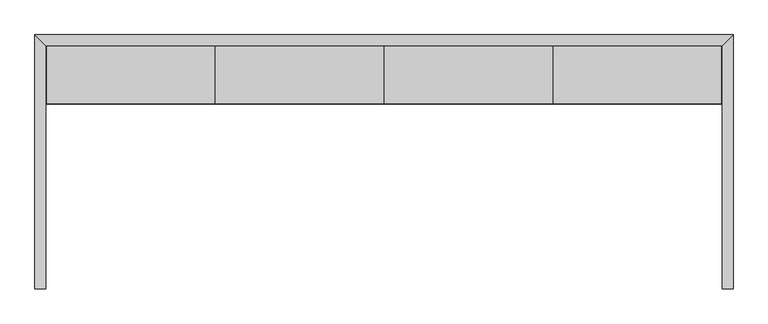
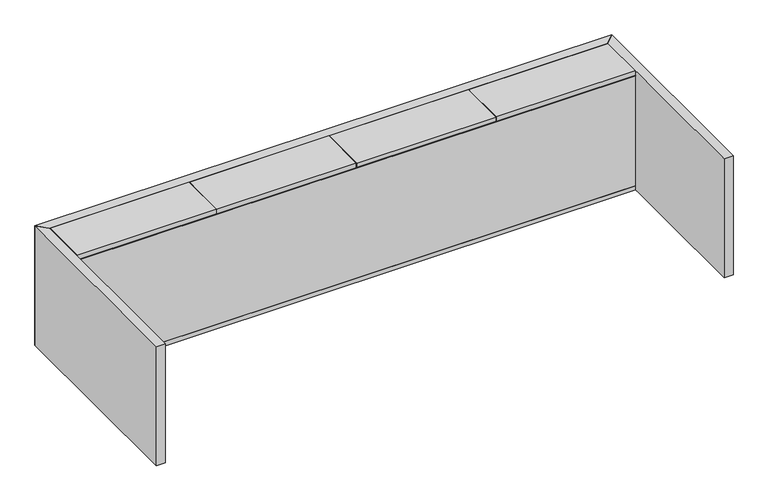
"""IFC4 building model written with IfcOpenShell, lengths in millimetres: proxy geometry, FOUNDATION^CONSOLE CREDENZA_35x96 4 DOOR-PARTS SOLID."""

from ifc_helpers import new_model, si_unit, frame, origin, origin_with_axes, place, context, project, spatial, polyline, outline, extrude, source, transform, mapped, element, save


def generic_models_2f98a441(model_context):
    return source(origin(), model_context, "Body", "SweptSolid", [
        extrude(outline(polyline([(38.1, 647.7), (38.1, 850.9), (2400.3, 850.9), (2400.3, 647.7), (38.1, 647.7)])), origin_with_axes(), (0.0, 0.0, 1.0), 19.05),
        extrude(outline(polyline([(2438.4, 889.0), (2400.3, 850.9), (38.1, 850.9), (0.0, 889.0), (2438.4, 889.0)])), origin_with_axes(), (0.0, 0.0, 1.0), 533.4),
        extrude(outline(polyline([(1209.675, 850.9), (1228.725, 850.9), (1228.725, 666.75), (1209.675, 666.75), (1209.675, 850.9)])), frame((0.0, 0.0, 19.05), z_axis=(0.0, 0.0, 1.0), x_axis=(1.0, 0.0, 0.0)), (0.0, 0.0, 1.0), 492.125),
        extrude(outline(polyline([(1824.0375, 666.75), (1804.9875, 666.75), (1804.9875, 850.9), (1824.0375, 850.9), (1824.0375, 666.75)])), frame((0.0, 0.0, 19.05), z_axis=(0.0, 0.0, 1.0), x_axis=(1.0, 0.0, 0.0)), (0.0, 0.0, 1.0), 492.125),
        extrude(outline(polyline([(633.4125, 666.75), (614.3625, 666.75), (614.3625, 850.9), (633.4125, 850.9), (633.4125, 666.75)])), frame((0.0, 0.0, 19.05), z_axis=(0.0, 0.0, 1.0), x_axis=(1.0, 0.0, 0.0)), (0.0, 0.0, 1.0), 492.125),
        extrude(outline(polyline([(1810.3453125, 647.7), (1810.3453125, 848.51875), (2397.91875, 848.51875), (2397.91875, 647.7), (1810.3453125, 647.7)])), frame((0.0, 0.0, 514.35), z_axis=(0.0, 0.0, 1.0), x_axis=(1.0, 0.0, 0.0)), (0.0, 0.0, 1.0), 19.05),
        extrude(outline(polyline([(630.4359375, 647.7), (630.4359375, 848.51875), (1218.009375, 848.51875), (1218.009375, 647.7), (630.4359375, 647.7)])), frame((0.0, 0.0, 514.35), z_axis=(0.0, 0.0, 1.0), x_axis=(1.0, 0.0, 0.0)), (0.0, 0.0, 1.0), 19.05),
        extrude(outline(polyline([(2400.3, 647.7), (38.1, 647.7), (38.1, 666.75), (2400.3, 666.75), (2400.3, 647.7)])), frame((0.0, 0.0, 19.05), z_axis=(0.0, 0.0, 1.0), x_axis=(1.0, 0.0, 0.0)), (0.0, 0.0, 1.0), 492.125),
        extrude(outline(polyline([(2400.3, 850.9), (2438.4, 889.0), (2438.4, 0.0), (2400.3, 0.0), (2400.3, 850.9)])), origin_with_axes(), (0.0, 0.0, 1.0), 533.4),
        extrude(outline(polyline([(38.1, 0.0), (0.0, 0.0), (0.0, 889.0), (38.1, 850.9), (38.1, 0.0)])), origin_with_axes(), (0.0, 0.0, 1.0), 533.4),
        extrude(outline(polyline([(1220.390625, 647.7), (1220.390625, 848.51875), (1807.9640625, 848.51875), (1807.9640625, 647.7), (1220.390625, 647.7)])), frame((0.0, 0.0, 514.35), z_axis=(0.0, 0.0, 1.0), x_axis=(1.0, 0.0, 0.0)), (0.0, 0.0, 1.0), 19.05),
        extrude(outline(polyline([(40.48125, 647.7), (40.48125, 848.51875), (628.0546875, 848.51875), (628.0546875, 647.7), (40.48125, 647.7)])), frame((0.0, 0.0, 514.35), z_axis=(0.0, 0.0, 1.0), x_axis=(1.0, 0.0, 0.0)), (0.0, 0.0, 1.0), 19.05),
    ])


if __name__ == "__main__":
    model = new_model("IFC4")
    model_context = context("Model", 3, world=origin())
    ifc_project = project(units=[si_unit("LENGTHUNIT", "METRE", prefix="MILLI")], contexts=[model_context])
    site = spatial("IfcSite", under=ifc_project)
    building = spatial("IfcBuilding", under=site)
    placement = place(None, origin())
    generic_models_shape = generic_models_2f98a441(model_context)
    element("IfcBuildingElementProxy", 1, Name="FOUNDATION^CONSOLE CREDENZA_35x96 4 DOOR-PARTS SOLID", ObjectType="FOUNDATION^CONSOLE CREDENZA_35x96 4 DOOR-PARTS SOLID", at=placement, inside=building, context=model_context, shape_type="MappedRepresentation", body=[
        mapped(generic_models_shape, transform((0.0, 0.0, 0.0), x_axis=(1.0, 0.0, 0.0), y_axis=(0.0, 1.0, 0.0), z_axis=(0.0, 0.0, 1.0))),
    ])
    save(model, "model.ifc")
